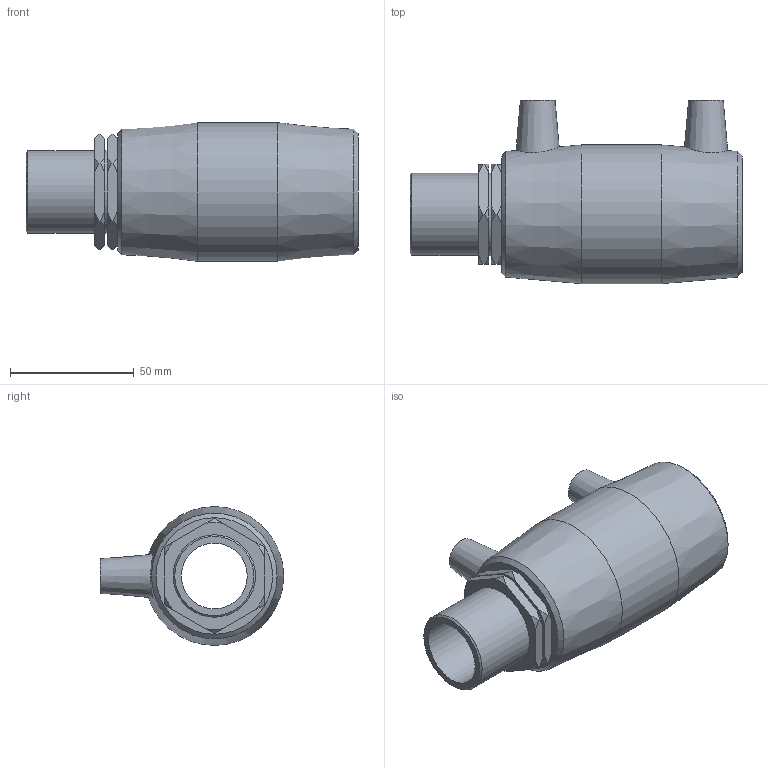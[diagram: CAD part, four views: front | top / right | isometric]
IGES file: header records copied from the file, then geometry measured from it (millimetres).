
Global section: file name: 497104040010.ipt; native system: Autodesk Inventor 2015; preprocessor: unknown; author: KIM; date: 20171106.094426; units: millimetre
Bounding box: 134 x 74 x 56 mm (x, y, z)
Volume: 148903.9 mm3; surface area: 43281.7 mm2
Topology: 1 solids, 2 shells, 75 faces, 186 edges, 126 vertices
Faces by surface type: cone 31, plane 29, revolution 8, cylinder 7
Full cylindrical faces by diameter (mm): 4 x2, 33.249 x2, 40 x2, 56 x1
